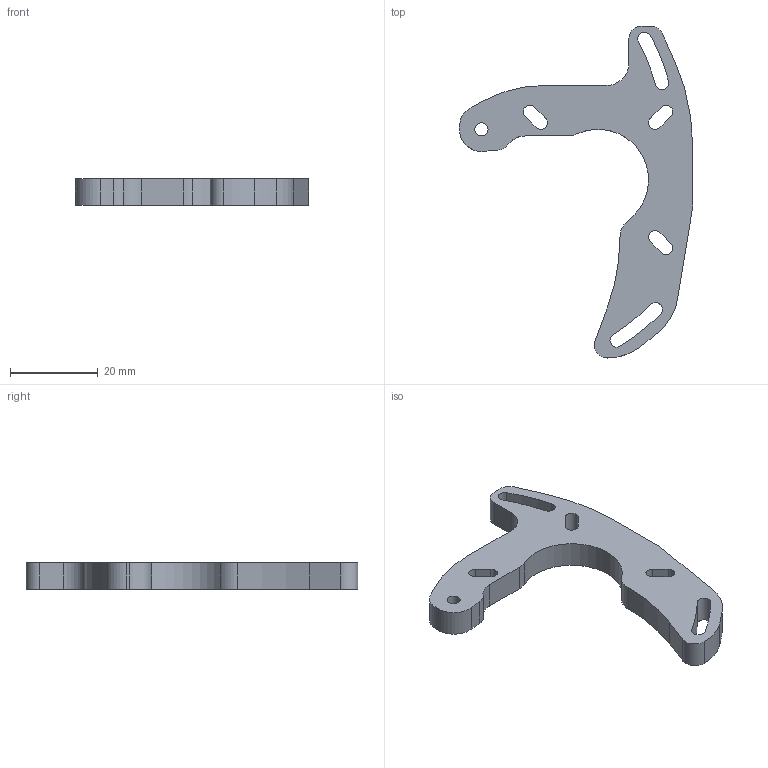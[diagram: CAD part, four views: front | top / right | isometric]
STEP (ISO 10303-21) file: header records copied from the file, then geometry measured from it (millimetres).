
FILE_DESCRIPTION(/* description */ ('STEP AP242','CAx-IF Rec.Pracs.---Representation and Presentation of Product Manufacturing Information (PMI)---4.0---2014-10-13','CAx-IF Rec.Pracs.---3D Tessellated Geometry---0.4---2014-09-14','2;1'),/* implementation_level */ '2;1');
FILE_NAME(/* name */ '20 - Motor support - Motor support',/* time_stamp */ '2024-12-03T19:58:33Z',/* author */ (''),/* organization */ (''),/* preprocessor_version */ 'ST-DEVELOPER v20',/* originating_system */ 'ONSHAPE BY PTC INC, 1.190',/* authorisation */ ' ');
FILE_SCHEMA (('AP242_MANAGED_MODEL_BASED_3D_ENGINEERING_MIM_LF { 1 0 10303 442 1 1 4 }'));
Length unit declared in the file: metre
Products named in the file (1): Motor support
Bounding box: 53 x 75.5 x 6 mm (x, y, z)
Volume: 7395 mm3; surface area: 4665.1 mm2
Topology: 1 solids, 1 shells, 53 faces, 153 edges, 102 vertices
Faces by surface type: cylinder 34, plane 19
Full cylindrical faces by diameter (mm): 3 x1
Entity records: 1816 total; most frequent: DIRECTION 328, CARTESIAN_POINT 308, ORIENTED_EDGE 304, EDGE_CURVE 152, AXIS2_PLACEMENT_3D 122, VERTEX_POINT 102, LINE 84, VECTOR 84
